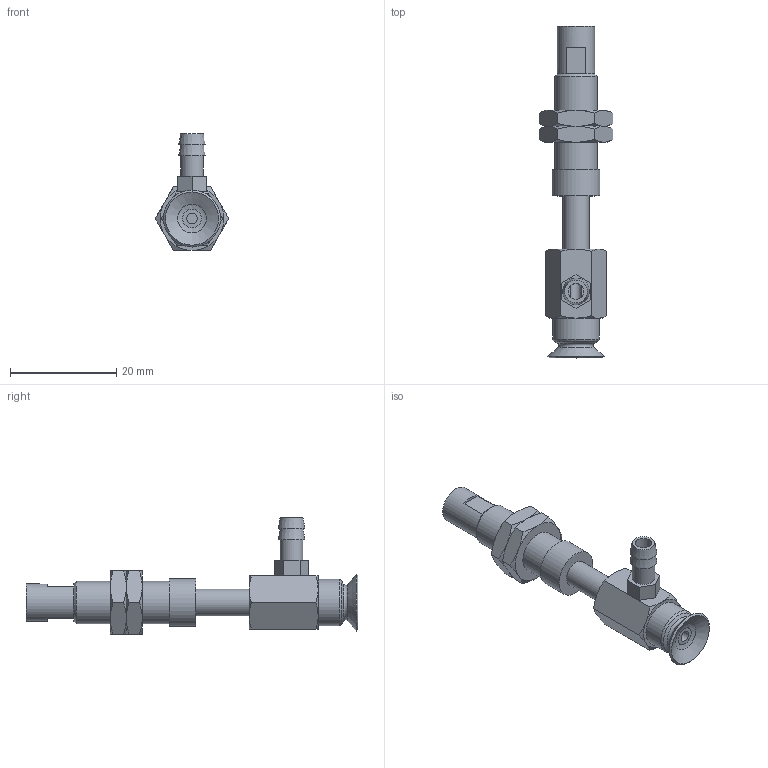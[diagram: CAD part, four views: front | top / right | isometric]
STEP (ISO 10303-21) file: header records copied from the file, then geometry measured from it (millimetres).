
FILE_DESCRIPTION(('STEP AP203'),'1');
FILE_NAME('-T.stp','2025-04-09T06:52:08',(' '),(' '),'Spatial InterOp 3D',' ',' ');
FILE_SCHEMA(('CONFIG_CONTROL_DESIGN'));
Length unit declared in the file: millimetre
Products named in the file (7): BNABPFYS-10A-10-※-T; CONNECTOR-10A-10; Nut-10A-10-s; NAPFTS-10A-10-FBODY; NAPFTS-10A-10-MBODY; BPFG-10A-※; T
Assembly tree (7 placements, depth 2):
  BNABPFYS-10A-10-※-T
    CONNECTOR-10A-10
    Nut-10A-10-s  x2
    NAPFTS-10A-10-FBODY
    NAPFTS-10A-10-MBODY
    BPFG-10A-※
    T
Bounding box: 13.86 x 62.5 x 22 mm (x, y, z)
Volume: 3669.7 mm3; surface area: 4611.8 mm2
Topology: 7 solids, 7 shells, 147 faces, 305 edges, 186 vertices
Faces by surface type: plane 64, cone 54, cylinder 20, torus 8, bspline 1
Full cylindrical faces by diameter (mm): 2 x2, 3 x1, 4 x2, 4.134 x2, 4.3 x1, 5 x4, 6 x2, 7 x1, 7.188 x2, 8 x1, 8.7 x1, 9 x1
Entity records: 3613 total; most frequent: CARTESIAN_POINT 863, DIRECTION 508, ORIENTED_EDGE 412, AXIS2_PLACEMENT_3D 225, EDGE_CURVE 206, EDGE_LOOP 192, FACE_OUTER_BOUND 152, VERTEX_POINT 150
